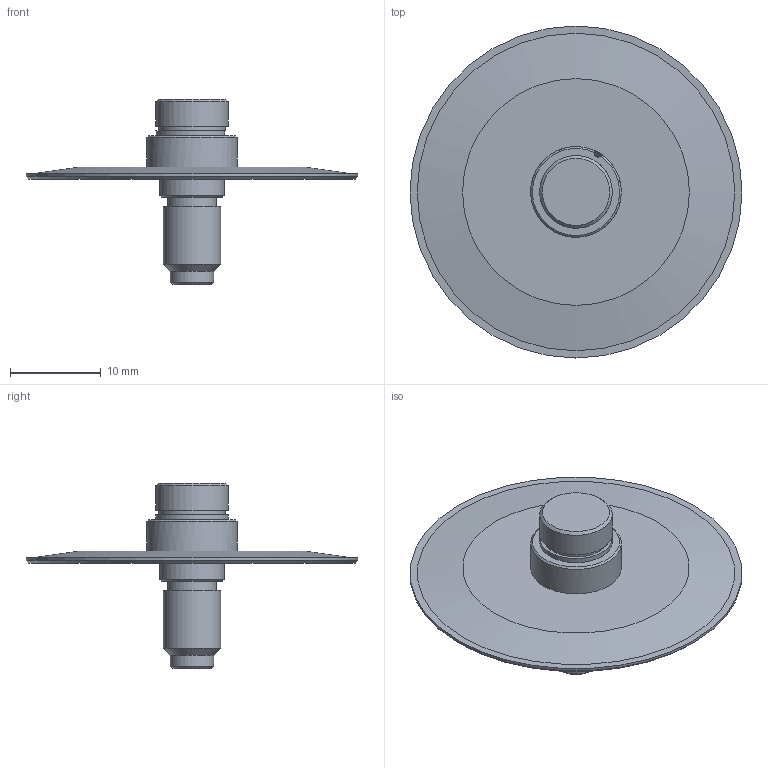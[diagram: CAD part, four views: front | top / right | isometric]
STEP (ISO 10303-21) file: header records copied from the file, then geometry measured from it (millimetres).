
FILE_DESCRIPTION(('Open CASCADE Model'),'2;1');
FILE_NAME('Open CASCADE Shape Model','2026-11-11T16:54:54',('Author'),( 'Open CASCADE'),'Open CASCADE STEP processor 7.9','Open CASCADE 7.9' ,'Unknown');
FILE_SCHEMA(('AUTOMOTIVE_DESIGN { 1 0 10303 214 1 1 1 1 }'));
Length unit declared in the file: millimetre
Products named in the file (1): Open CASCADE STEP translator 7.9 6
Bounding box: 36.6 x 36.6 x 20.45 mm (x, y, z)
Volume: 1847.8 mm3; surface area: 2741.8 mm2
Topology: 1 solids, 1 shells, 33 faces, 61 edges, 38 vertices
Faces by surface type: plane 14, cylinder 12, cone 7
Full cylindrical faces by diameter (mm): 1 x1, 2.2 x1, 3.15 x1, 4.8 x1, 5.4 x1, 6.35 x1, 7.1 x1, 7.3 x1, 8 x1, 10 x1, 36.6 x1
Entity records: 2019 total; most frequent: CARTESIAN_POINT 688, DIRECTION 263, ORIENTED_EDGE 122, PCURVE 122, DEFINITIONAL_REPRESENTATION 122, LINE 103, VECTOR 103, AXIS2_PLACEMENT_3D 68
